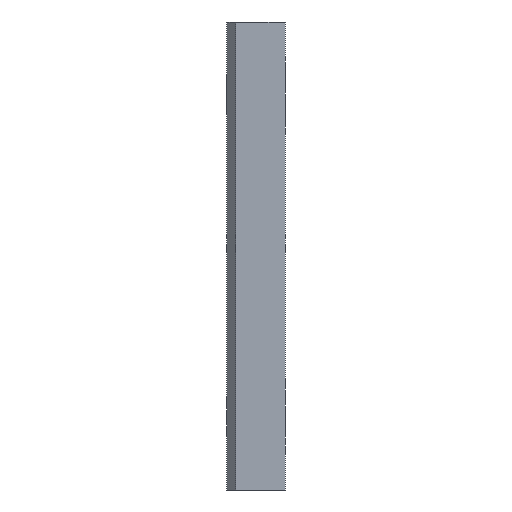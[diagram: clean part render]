
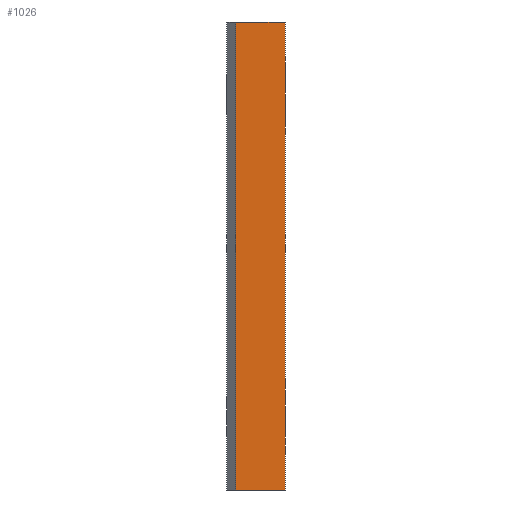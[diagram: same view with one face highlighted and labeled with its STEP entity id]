
A CAD part, front view. The second image highlights one B-rep face of the part: STEP entity #1026.
In plain terms, the highlighted planar face has unit normal (0, -1, 0).
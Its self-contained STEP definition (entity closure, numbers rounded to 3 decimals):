
#450=CARTESIAN_POINT('Vertex',(20.,0.,-80.)) ;
#453=CARTESIAN_POINT('Line Origine',(11.5,0.,-80.)) ;
#457=CARTESIAN_POINT('Vertex',(3.,0.,-80.)) ;
#480=CARTESIAN_POINT('Line Origine',(3.,0.,0.)) ;
#484=CARTESIAN_POINT('Vertex',(3.,0.,80.)) ;
#504=CARTESIAN_POINT('Line Origine',(11.5,0.,80.)) ;
#508=CARTESIAN_POINT('Vertex',(20.,0.,80.)) ;
#867=CARTESIAN_POINT('Line Origine',(20.,0.,0.)) ;
#1015=CARTESIAN_POINT('Axis2P3D Location',(3.,0.,80.)) ;
#454=DIRECTION('Vector Direction',(1.,0.,0.)) ;
#481=DIRECTION('Vector Direction',(0.,0.,-1.)) ;
#505=DIRECTION('Vector Direction',(1.,0.,0.)) ;
#868=DIRECTION('Vector Direction',(0.,0.,-1.)) ;
#1016=DIRECTION('Axis2P3D Direction',(0.,1.,0.)) ;
#1017=DIRECTION('Axis2P3D XDirection',(0.,-0.,1.)) ;
#1018=AXIS2_PLACEMENT_3D('Plane Axis2P3D',#1015,#1016,#1017) ;
#1021=ORIENTED_EDGE('',*,*,#459,.T.) ;
#1022=ORIENTED_EDGE('',*,*,#871,.F.) ;
#1023=ORIENTED_EDGE('',*,*,#510,.F.) ;
#1024=ORIENTED_EDGE('',*,*,#486,.T.) ;
#455=VECTOR('Line Direction',#454,1.) ;
#482=VECTOR('Line Direction',#481,1.) ;
#506=VECTOR('Line Direction',#505,1.) ;
#869=VECTOR('Line Direction',#868,1.) ;
#1026=ADVANCED_FACE('A915-160X250',(#1025),#1019,.F.) ;
#459=EDGE_CURVE('',#458,#451,#456,.T.) ;
#486=EDGE_CURVE('',#485,#458,#483,.T.) ;
#510=EDGE_CURVE('',#485,#509,#507,.T.) ;
#871=EDGE_CURVE('',#509,#451,#870,.T.) ;
#1020=EDGE_LOOP('',(#1021,#1022,#1023,#1024)) ;
#1025=FACE_OUTER_BOUND('',#1020,.T.) ;
#456=LINE('Line',#453,#455) ;
#483=LINE('Line',#480,#482) ;
#507=LINE('Line',#504,#506) ;
#870=LINE('Line',#867,#869) ;
#1019=PLANE('Plane',#1018) ;
#451=VERTEX_POINT('',#450) ;
#458=VERTEX_POINT('',#457) ;
#485=VERTEX_POINT('',#484) ;
#509=VERTEX_POINT('',#508) ;
